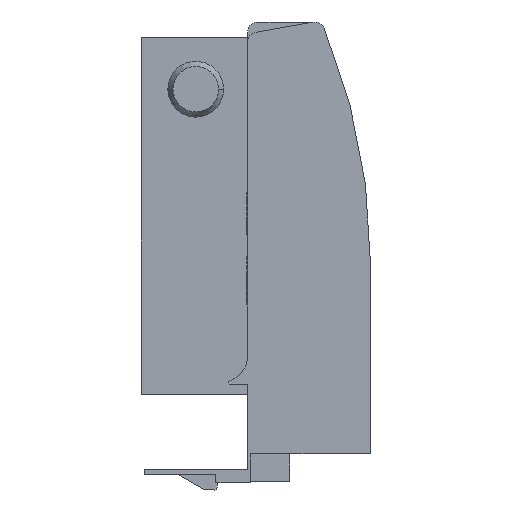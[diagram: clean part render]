
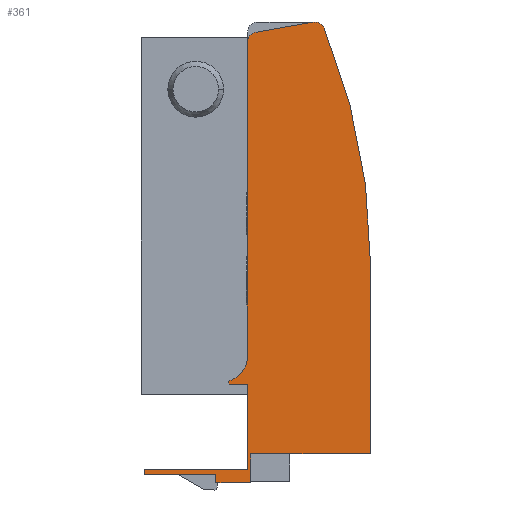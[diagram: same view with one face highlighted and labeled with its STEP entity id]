
A CAD part, front view. The second image highlights one B-rep face of the part: STEP entity #361.
In plain terms, the highlighted planar face has unit normal (0, -1, 0).
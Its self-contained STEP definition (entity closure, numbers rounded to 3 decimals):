
#51 = EDGE_CURVE ( 'NONE', #453, #384, #1868, .T. ) ;
#52 = EDGE_CURVE ( 'NONE', #384, #387, #2136, .T. ) ;
#53 = EDGE_CURVE ( 'NONE', #431, #375, #2043, .T. ) ;
#54 = EDGE_CURVE ( 'NONE', #397, #389, #1955, .T. ) ;
#55 = EDGE_CURVE ( 'NONE', #383, #397, #2076, .T. ) ;
#56 = EDGE_CURVE ( 'NONE', #373, #383, #2170, .T. ) ;
#57 = EDGE_CURVE ( 'NONE', #456, #395, #2018, .T. ) ;
#61 = EDGE_CURVE ( 'NONE', #375, #387, #2131, .T. ) ;
#65 = EDGE_CURVE ( 'NONE', #435, #429, #2062, .T. ) ;
#70 = EDGE_CURVE ( 'NONE', #429, #431, #1884, .T. ) ;
#81 = EDGE_CURVE ( 'NONE', #395, #433, #1913, .T. ) ;
#87 = EDGE_CURVE ( 'NONE', #389, #396, #1945, .T. ) ;
#88 = EDGE_CURVE ( 'NONE', #433, #373, #2047, .T. ) ;
#96 = EDGE_CURVE ( 'NONE', #453, #428, #2011, .T. ) ;
#98 = EDGE_CURVE ( 'NONE', #376, #456, #2039, .T. ) ;
#101 = EDGE_CURVE ( 'NONE', #428, #376, #2010, .T. ) ;
#109 = EDGE_CURVE ( 'NONE', #396, #435, #1922, .T. ) ;
#225 = AXIS2_PLACEMENT_3D ( 'NONE', #628, #629, #630 ) ;
#226 = AXIS2_PLACEMENT_3D ( 'NONE', #633, #634, #635 ) ;
#228 = AXIS2_PLACEMENT_3D ( 'NONE', #651, #652, #653 ) ;
#235 = AXIS2_PLACEMENT_3D ( 'NONE', #738, #739, #740 ) ;
#308 = AXIS2_PLACEMENT_3D ( 'NONE', #1152, #1153, #1154 ) ;
#361 = ADVANCED_FACE ( 'NONE', ( #1765 ), #1151, .T. ) ;
#373 = VERTEX_POINT ( 'NONE', #1179 ) ;
#375 = VERTEX_POINT ( 'NONE', #1181 ) ;
#376 = VERTEX_POINT ( 'NONE', #1182 ) ;
#383 = VERTEX_POINT ( 'NONE', #1189 ) ;
#384 = VERTEX_POINT ( 'NONE', #1190 ) ;
#387 = VERTEX_POINT ( 'NONE', #1193 ) ;
#389 = VERTEX_POINT ( 'NONE', #1195 ) ;
#395 = VERTEX_POINT ( 'NONE', #1201 ) ;
#396 = VERTEX_POINT ( 'NONE', #1202 ) ;
#397 = VERTEX_POINT ( 'NONE', #1203 ) ;
#428 = VERTEX_POINT ( 'NONE', #1234 ) ;
#429 = VERTEX_POINT ( 'NONE', #1235 ) ;
#431 = VERTEX_POINT ( 'NONE', #1237 ) ;
#433 = VERTEX_POINT ( 'NONE', #1239 ) ;
#435 = VERTEX_POINT ( 'NONE', #1241 ) ;
#453 = VERTEX_POINT ( 'NONE', #1259 ) ;
#456 = VERTEX_POINT ( 'NONE', #1262 ) ;
#628 = CARTESIAN_POINT ( 'NONE',  ( -19.5, 0., 66.06 ) ) ;
#629 = DIRECTION ( 'NONE',  ( 0., 1., 0. ) ) ;
#630 = DIRECTION ( 'NONE',  ( 1., 0., 0. ) ) ;
#631 = CARTESIAN_POINT ( 'NONE',  ( -8.847, 0., 69.97 ) ) ;
#632 = DIRECTION ( 'NONE',  ( 0.985, 0., 0.174 ) ) ;
#633 = CARTESIAN_POINT ( 'NONE',  ( -118.3, 0., 23.168 ) ) ;
#634 = DIRECTION ( 'NONE',  ( 0., -1., 0. ) ) ;
#635 = DIRECTION ( 'NONE',  ( 1., 0., 0. ) ) ;
#636 = CARTESIAN_POINT ( 'NONE',  ( -27.599, 0., -17.528 ) ) ;
#637 = DIRECTION ( 'NONE',  ( 0., 0., -1. ) ) ;
#638 = CARTESIAN_POINT ( 'NONE',  ( -41.499, 0., -17.528 ) ) ;
#639 = DIRECTION ( 'NONE',  ( 1., 0., 0. ) ) ;
#640 = CARTESIAN_POINT ( 'NONE',  ( -41.499, 0., -16.5 ) ) ;
#641 = DIRECTION ( 'NONE',  ( 0., 0., -1. ) ) ;
#642 = CARTESIAN_POINT ( 'NONE',  ( -25., 0., 0. ) ) ;
#643 = DIRECTION ( 'NONE',  ( 1., 0., 0. ) ) ;
#651 = CARTESIAN_POINT ( 'NONE',  ( -8.5, 0., 68. ) ) ;
#652 = DIRECTION ( 'NONE',  ( 0., -1., 0. ) ) ;
#653 = DIRECTION ( 'NONE',  ( 1., 0., 0. ) ) ;
#660 = CARTESIAN_POINT ( 'NONE',  ( -21.5, 0., -13.5 ) ) ;
#661 = DIRECTION ( 'NONE',  ( 1., 0., 0. ) ) ;
#671 = CARTESIAN_POINT ( 'NONE',  ( 2.3, 0., -13.5 ) ) ;
#672 = DIRECTION ( 'NONE',  ( 0., 0., 1. ) ) ;
#696 = CARTESIAN_POINT ( 'NONE',  ( -21.5, 0., 0. ) ) ;
#697 = DIRECTION ( 'NONE',  ( 0., 0., -1. ) ) ;
#708 = CARTESIAN_POINT ( 'NONE',  ( -27.599, 0., -19.1 ) ) ;
#709 = DIRECTION ( 'NONE',  ( 1., 0., 0. ) ) ;
#710 = CARTESIAN_POINT ( 'NONE',  ( -21.5, 0., -16.5 ) ) ;
#711 = DIRECTION ( 'NONE',  ( -1., 0., 0. ) ) ;
#728 = CARTESIAN_POINT ( 'NONE',  ( -21.5, 0., 68. ) ) ;
#729 = DIRECTION ( 'NONE',  ( 0., 0., -1. ) ) ;
#732 = CARTESIAN_POINT ( 'NONE',  ( -25.161, 0., 0.578 ) ) ;
#733 = DIRECTION ( 'NONE',  ( 0.268, 0., -0.963 ) ) ;
#738 = CARTESIAN_POINT ( 'NONE',  ( -26.5, 0., 5.395 ) ) ;
#739 = DIRECTION ( 'NONE',  ( 0., 1., 0. ) ) ;
#740 = DIRECTION ( 'NONE',  ( 1., 0., 0. ) ) ;
#755 = CARTESIAN_POINT ( 'NONE',  ( -20.9, 0., -19.1 ) ) ;
#756 = DIRECTION ( 'NONE',  ( 0., 0., 1. ) ) ;
#1151 = PLANE ( 'NONE',  #308 ) ;
#1152 = CARTESIAN_POINT ( 'NONE',  ( -4.5, 0., 34.728 ) ) ;
#1153 = DIRECTION ( 'NONE',  ( 0., -1., 0. ) ) ;
#1154 = DIRECTION ( 'NONE',  ( 1., 0., 0. ) ) ;
#1179 = CARTESIAN_POINT ( 'NONE',  ( -41.499, 0., -16.5 ) ) ;
#1181 = CARTESIAN_POINT ( 'NONE',  ( -6.648, 0., 68.756 ) ) ;
#1182 = CARTESIAN_POINT ( 'NONE',  ( -25.161, 0., 0.578 ) ) ;
#1189 = CARTESIAN_POINT ( 'NONE',  ( -41.499, 0., -17.528 ) ) ;
#1190 = CARTESIAN_POINT ( 'NONE',  ( -19.847, 0., 68.03 ) ) ;
#1193 = CARTESIAN_POINT ( 'NONE',  ( -8.847, 0., 69.97 ) ) ;
#1195 = CARTESIAN_POINT ( 'NONE',  ( -27.599, 0., -19.1 ) ) ;
#1201 = CARTESIAN_POINT ( 'NONE',  ( -21.5, 0., 0. ) ) ;
#1202 = CARTESIAN_POINT ( 'NONE',  ( -20.9, 0., -19.1 ) ) ;
#1203 = CARTESIAN_POINT ( 'NONE',  ( -27.599, 0., -17.528 ) ) ;
#1234 = CARTESIAN_POINT ( 'NONE',  ( -21.5, 0., 5.395 ) ) ;
#1235 = CARTESIAN_POINT ( 'NONE',  ( 2.3, 0., -13.5 ) ) ;
#1237 = CARTESIAN_POINT ( 'NONE',  ( 2.3, 0., 23.168 ) ) ;
#1239 = CARTESIAN_POINT ( 'NONE',  ( -21.5, 0., -16.5 ) ) ;
#1241 = CARTESIAN_POINT ( 'NONE',  ( -20.9, 0., -13.5 ) ) ;
#1259 = CARTESIAN_POINT ( 'NONE',  ( -21.5, 0., 66.06 ) ) ;
#1262 = CARTESIAN_POINT ( 'NONE',  ( -25., 0., 0. ) ) ;
#1356 = ORIENTED_EDGE ( 'NONE', *, *, #98, .T. ) ;
#1357 = ORIENTED_EDGE ( 'NONE', *, *, #57, .T. ) ;
#1358 = ORIENTED_EDGE ( 'NONE', *, *, #81, .T. ) ;
#1359 = ORIENTED_EDGE ( 'NONE', *, *, #88, .T. ) ;
#1360 = ORIENTED_EDGE ( 'NONE', *, *, #56, .T. ) ;
#1361 = ORIENTED_EDGE ( 'NONE', *, *, #55, .T. ) ;
#1362 = ORIENTED_EDGE ( 'NONE', *, *, #54, .T. ) ;
#1363 = ORIENTED_EDGE ( 'NONE', *, *, #87, .T. ) ;
#1487 = ORIENTED_EDGE ( 'NONE', *, *, #109, .T. ) ;
#1488 = ORIENTED_EDGE ( 'NONE', *, *, #65, .T. ) ;
#1489 = ORIENTED_EDGE ( 'NONE', *, *, #70, .T. ) ;
#1490 = ORIENTED_EDGE ( 'NONE', *, *, #53, .T. ) ;
#1491 = ORIENTED_EDGE ( 'NONE', *, *, #61, .T. ) ;
#1492 = ORIENTED_EDGE ( 'NONE', *, *, #52, .F. ) ;
#1493 = ORIENTED_EDGE ( 'NONE', *, *, #51, .F. ) ;
#1494 = ORIENTED_EDGE ( 'NONE', *, *, #96, .T. ) ;
#1495 = ORIENTED_EDGE ( 'NONE', *, *, #101, .T. ) ;
#1679 = EDGE_LOOP ( 'NONE', ( #1356, #1357, #1358, #1359, #1360, #1361, #1362, #1363, #1487, #1488, #1489, #1490, #1491, #1492, #1493, #1494, #1495 ) ) ;
#1765 = FACE_OUTER_BOUND ( 'NONE', #1679, .T. ) ;
#1868 = CIRCLE ( 'NONE', #225, 2. ) ;
#1884 = LINE ( 'NONE', #671, #2108 ) ;
#1897 = VECTOR ( 'NONE', #641, 1000. ) ;
#1899 = VECTOR ( 'NONE', #643, 1000. ) ;
#1913 = LINE ( 'NONE', #696, #2089 ) ;
#1914 = VECTOR ( 'NONE', #639, 1000. ) ;
#1922 = LINE ( 'NONE', #755, #2068 ) ;
#1932 = VECTOR ( 'NONE', #709, 1000. ) ;
#1945 = LINE ( 'NONE', #708, #1932 ) ;
#1955 = LINE ( 'NONE', #636, #2156 ) ;
#1956 = VECTOR ( 'NONE', #661, 1000. ) ;
#2010 = CIRCLE ( 'NONE', #235, 5. ) ;
#2011 = LINE ( 'NONE', #728, #2071 ) ;
#2018 = LINE ( 'NONE', #642, #1899 ) ;
#2029 = VECTOR ( 'NONE', #733, 1000. ) ;
#2039 = LINE ( 'NONE', #732, #2029 ) ;
#2043 = CIRCLE ( 'NONE', #226, 120.6 ) ;
#2047 = LINE ( 'NONE', #710, #2133 ) ;
#2062 = LINE ( 'NONE', #660, #1956 ) ;
#2068 = VECTOR ( 'NONE', #756, 1000. ) ;
#2071 = VECTOR ( 'NONE', #729, 1000. ) ;
#2076 = LINE ( 'NONE', #638, #1914 ) ;
#2089 = VECTOR ( 'NONE', #697, 1000. ) ;
#2099 = VECTOR ( 'NONE', #632, 1000. ) ;
#2108 = VECTOR ( 'NONE', #672, 1000. ) ;
#2131 = CIRCLE ( 'NONE', #228, 2. ) ;
#2133 = VECTOR ( 'NONE', #711, 1000. ) ;
#2136 = LINE ( 'NONE', #631, #2099 ) ;
#2156 = VECTOR ( 'NONE', #637, 1000. ) ;
#2170 = LINE ( 'NONE', #640, #1897 ) ;
